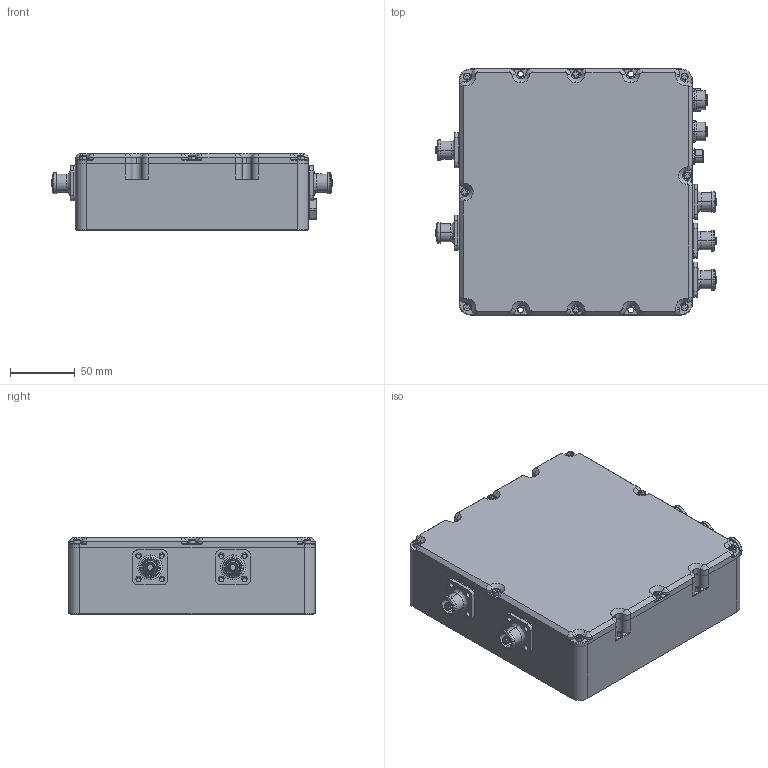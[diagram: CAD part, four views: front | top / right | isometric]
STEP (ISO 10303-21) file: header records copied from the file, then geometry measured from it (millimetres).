
FILE_DESCRIPTION (( 'STEP AP203' ), '1' );
FILE_NAME ('MESC Enclosure v1.0.STEP', '2026-09-08T14:23:40', ( '' ), ( '' ), 'SwSTEP 2.0', 'SolidWorks 2026', '' );
FILE_SCHEMA (( 'CONFIG_CONTROL_DESIGN' ));
Length unit declared in the file: millimetre
Products named in the file (10): MESC Enclosure v1.0; c3d-slprabpso-01-000; Enclosure lid MESC v1; MESC_Powerboard_V2_1(2); Enclosure MESC v1_Blank; Cilinderkopschroef, MBZ [DIN 912]_M03 x 10 RVS; Free-Models; 76_4332_0011_00005-0200; 76_6218_1111_00008-0200; J193-GORE VENT-PMF100585
Assembly tree (21 placements, depth 4):
  MESC Enclosure v1.0
    MESC_Powerboard_V2_1(2)
      Free-Models
        76_6218_1111_00008-0200
        76_4332_0011_00005-0200  x2
        c3d-slprabpso-01-000  x5
    Enclosure MESC v1_Blank
    Enclosure lid MESC v1
    Cilinderkopschroef, MBZ [DIN 912]_M03 x 10 RVS  x8
    J193-GORE VENT-PMF100585
Bounding box: 217.3 x 190 x 60 mm (x, y, z)
Volume: 1911899.3 mm3; surface area: 230168.7 mm2
Topology: 19 solids, 26 shells, 2918 faces, 7577 edges, 4866 vertices
Faces by surface type: cylinder 1023, plane 894, bspline 459, cone 440, torus 94, sphere 8
Entity records: 61373 total; most frequent: CARTESIAN_POINT 21957, ORIENTED_EDGE 8290, DIRECTION 7515, EDGE_CURVE 4145, AXIS2_PLACEMENT_3D 2868, VERTEX_POINT 2665, EDGE_LOOP 1818, VECTOR 1779
